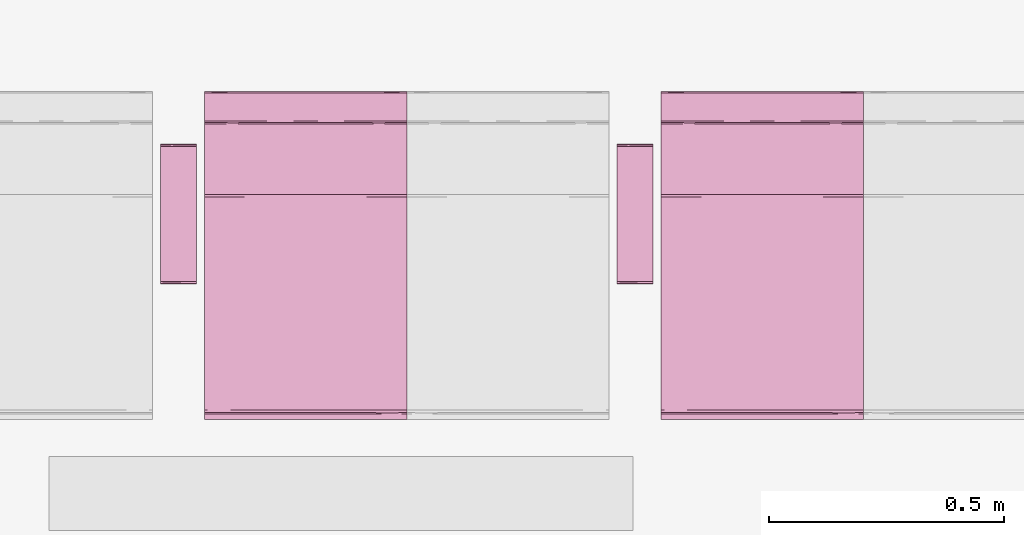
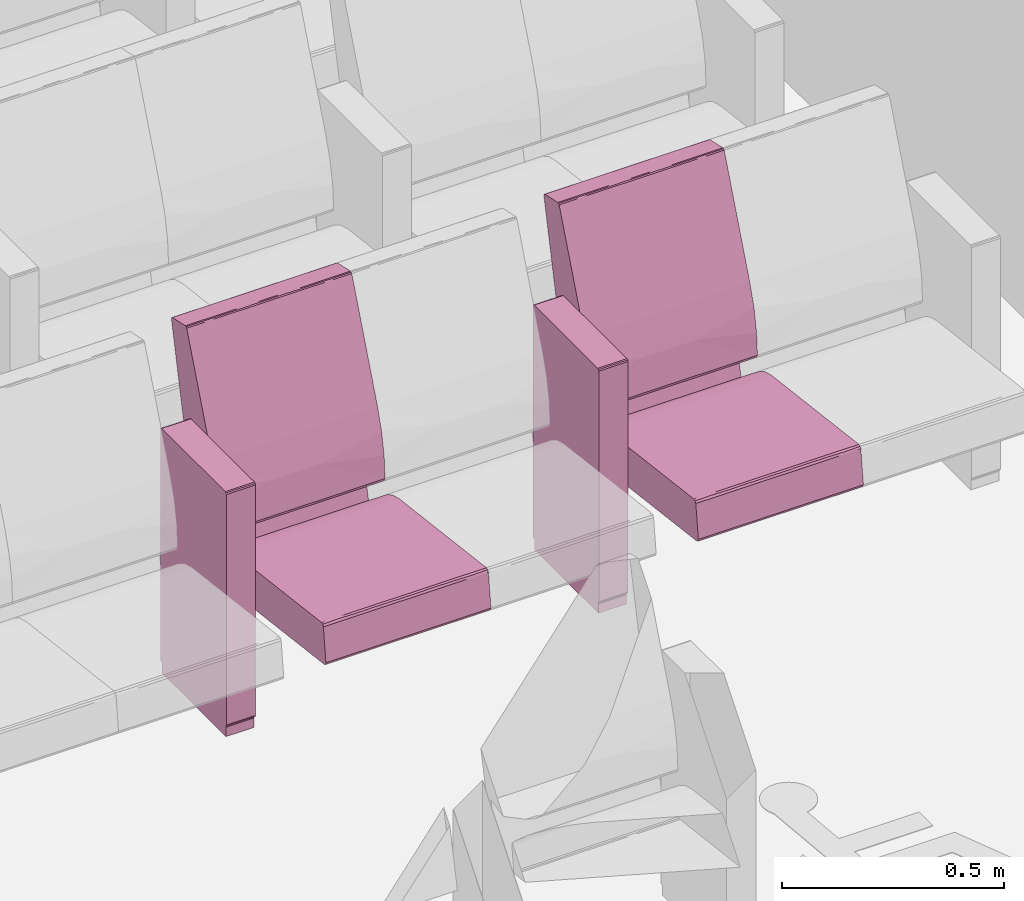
# One storey, part 90 of 155: 2 furnishings.
"""IFC2X3 building model written with IfcOpenShell, lengths in metres."""

from ifc_helpers import new_model, entity, si_unit, converted_unit, derived_unit, direction, frame, origin, place, context, subcontext, project, spatial, faceted_brep, source, transform, mapped, material, material_list, type_object, type_shapes, element, save


model = new_model("IFC2X3")

# Units and contexts
model_context = context("Model", 3, precision=1e-05, world=origin(), true_north=direction((6.12303176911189e-17, 1.0)))
body_context = subcontext(model_context, "Body", "Model", "MODEL_VIEW")
ifc_project = project(units=[si_unit("LENGTHUNIT", "METRE"), si_unit("AREAUNIT", "SQUARE_METRE"), si_unit("VOLUMEUNIT", "CUBIC_METRE"), converted_unit("PLANEANGLEUNIT", "DEGREE", entity("IfcRatioMeasure", 0.0174532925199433), si_unit("PLANEANGLEUNIT", "RADIAN"), dimensions=[0, 0, 0, 0, 0, 0, 0]), si_unit("MASSUNIT", "GRAM", prefix="KILO"), derived_unit("MASSDENSITYUNIT", [(si_unit("MASSUNIT", "GRAM", prefix="KILO"), 1), (si_unit("LENGTHUNIT", "METRE"), -3)]), si_unit("TIMEUNIT", "SECOND"), si_unit("FREQUENCYUNIT", "HERTZ"), si_unit("THERMODYNAMICTEMPERATUREUNIT", "DEGREE_CELSIUS"), derived_unit("THERMALTRANSMITTANCEUNIT", [(si_unit("MASSUNIT", "GRAM", prefix="KILO"), 1), (si_unit("THERMODYNAMICTEMPERATUREUNIT", "KELVIN"), -1), (si_unit("TIMEUNIT", "SECOND"), -3)]), derived_unit("VOLUMETRICFLOWRATEUNIT", [(si_unit("LENGTHUNIT", "METRE"), 3), (si_unit("TIMEUNIT", "SECOND"), -1)]), si_unit("ELECTRICCURRENTUNIT", "AMPERE"), si_unit("ELECTRICVOLTAGEUNIT", "VOLT"), si_unit("POWERUNIT", "WATT"), si_unit("FORCEUNIT", "NEWTON", prefix="KILO"), si_unit("ILLUMINANCEUNIT", "LUX"), si_unit("LUMINOUSFLUXUNIT", "LUMEN"), si_unit("LUMINOUSINTENSITYUNIT", "CANDELA"), derived_unit("USERDEFINED", [(si_unit("MASSUNIT", "GRAM", prefix="KILO"), -1), (si_unit("LENGTHUNIT", "METRE"), -2), (si_unit("TIMEUNIT", "SECOND"), 3), (si_unit("LUMINOUSFLUXUNIT", "LUMEN"), 1)]), derived_unit("LINEARVELOCITYUNIT", [(si_unit("LENGTHUNIT", "METRE"), 1), (si_unit("TIMEUNIT", "SECOND"), -1)]), si_unit("PRESSUREUNIT", "PASCAL"), derived_unit("USERDEFINED", [(si_unit("LENGTHUNIT", "METRE"), -2), (si_unit("MASSUNIT", "GRAM", prefix="KILO"), 1), (si_unit("TIMEUNIT", "SECOND"), -2)])], contexts=[model_context])

# Site, building, storey, space
site_placement = place(None, frame((26.9889013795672, -17.5624287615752, 0.0)))
site = spatial("IfcSite", under=ifc_project, at=site_placement, Name="Default", CompositionType="ELEMENT")
building_placement = place(site_placement, origin())
building = spatial("IfcBuilding", under=site, at=building_placement, Name="C. C. L. Monsenhor Antônio Sampaio", CompositionType="ELEMENT")
storey_placement = place(building_placement, frame((0.0, 0.0, 1.19999999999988)))
storey = spatial("IfcBuildingStorey", under=building, at=storey_placement, Name="Nível 1.2", CompositionType="ELEMENT", Elevation=1.19999999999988)
space_placement = place(storey_placement, origin())
space = spatial("IfcSpace", under=storey, at=space_placement, Name="94", CompositionType="ELEMENT", InteriorOrExteriorSpace="INTERNAL")

# Furnishings
ifc_material_1 = material(Name="V9 - V9 - Ecopelle_672_658")
ifc_material_2 = material(Name="V9 - V9 - RAL_9006_Grigio")
ifc_material_list_1 = material_list([ifc_material_1, ifc_material_2])
ifc_material_list_2 = material_list([ifc_material_1, ifc_material_2])
furniture_type = type_object("IfcFurnitureType", Name="Cadeira auditório", material=ifc_material_list_2)
shared_shape = source(origin(), body_context, "Body", "Brep", [
    faceted_brep([(0.405536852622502, 0.156348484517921, 0.339809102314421), (0.410560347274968, 0.131924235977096, 0.34246450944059), (0.405536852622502, 0.1075, 0.339809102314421), (0.405536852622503, 0.0537499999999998, 0.339809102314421), (0.410597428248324, 0.084060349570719, 0.342506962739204), (0.41079981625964, 0.0179166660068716, 0.342749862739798), (0.405536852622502, 0.215, 0.339809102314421), (0.410248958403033, 0.173608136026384, 0.342130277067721), (0.412515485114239, 0.185674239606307, 0.348529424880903), (0.412515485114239, 0.143333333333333, 0.348529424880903), (0.410560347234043, -0.131924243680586, 0.342464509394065), (0.405536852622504, -0.156348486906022, 0.33980910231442), (0.405536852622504, -0.1075, 0.33980910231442), (0.405536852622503, 0.0, 0.33980910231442), (0.41251548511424, 0.0, 0.348529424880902), (0.411170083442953, -0.0341365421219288, 0.343251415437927), (0.41059742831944, -0.0840603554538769, 0.342506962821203), (0.41251548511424, -0.143333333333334, 0.348529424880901), (0.412515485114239, 0.0358333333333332, 0.348529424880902), (0.412515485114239, 0.0716666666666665, 0.348529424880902), (0.405536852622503, -0.0537500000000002, 0.33980910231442), (0.412515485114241, -0.185674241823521, 0.348529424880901), (0.410799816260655, -0.215, 0.342749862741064), (0.410248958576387, -0.173608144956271, 0.342130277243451), (0.410799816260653, 0.215, 0.342749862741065), (0.412515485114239, 0.215, 0.348529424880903), (0.412515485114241, -0.215, 0.348529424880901), (0.41251548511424, -0.0716666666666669, 0.348529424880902), (0.405536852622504, -0.215, 0.33980910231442), (-0.0557900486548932, -0.215, 0.28268145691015), (-0.055790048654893, -0.168631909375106, 0.282681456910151), (-0.0557900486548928, -0.138065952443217, 0.282681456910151), (-0.0557900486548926, -0.107499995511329, 0.282681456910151), (-0.0557900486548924, -0.0806249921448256, 0.282681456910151), (-0.0557900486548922, -0.0537499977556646, 0.282681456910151), (-0.0557900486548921, -0.0268750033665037, 0.282681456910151), (-0.0557900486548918, 0.0, 0.28268145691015), (-0.0557900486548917, 0.0268749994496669, 0.282681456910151), (-0.0557900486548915, 0.0537499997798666, 0.282681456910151), (-0.0557900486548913, 0.0806250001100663, 0.282681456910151), (-0.0557900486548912, 0.107499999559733, 0.282681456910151), (-0.055790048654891, 0.134374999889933, 0.282681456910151), (-0.0557900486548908, 0.161250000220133, 0.282681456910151), (-0.0557900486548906, 0.1881249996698, 0.282681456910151), (-0.0557900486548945, 0.215, 0.28268145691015), (-0.0594787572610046, -0.0152829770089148, 0.283700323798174), (-0.0613666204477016, 0.0, 0.287029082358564), (-0.0594787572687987, 0.0179017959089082, 0.283700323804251), (-0.0613666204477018, 0.191815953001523, 0.287029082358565), (-0.0613666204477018, 0.215, 0.287029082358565), (-0.0594787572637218, 0.215, 0.283700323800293), (-0.0593340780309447, 0.0671874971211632, 0.283591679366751), (-0.0613666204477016, 0.030565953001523, 0.287029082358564), (-0.0594787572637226, -0.215, 0.283700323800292), (-0.0593337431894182, -0.184174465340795, 0.283591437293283), (-0.0613666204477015, -0.122263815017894, 0.287029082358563), (-0.0613666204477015, -0.0916978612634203, 0.287029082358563), (-0.0613666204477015, -0.0611319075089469, 0.287029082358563), (-0.0593023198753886, -0.0940625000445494, 0.283568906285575), (-0.059382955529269, 0.118123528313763, 0.28362747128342), (-0.0613666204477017, 0.122263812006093, 0.287029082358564), (-0.0597338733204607, 0.147039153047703, 0.283913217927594), (-0.0613666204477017, 0.168631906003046, 0.287029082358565), (-0.0592501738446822, 0.180223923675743, 0.283532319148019), (-0.0588783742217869, 0.0926899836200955, 0.283298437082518), (-0.0613666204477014, -0.215, 0.287029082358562), (-0.0613666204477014, -0.168631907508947, 0.287029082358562), (-0.0592576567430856, -0.123736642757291, 0.283537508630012), (-0.0594787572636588, -0.153348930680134, 0.283700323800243), (-0.0613666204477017, 0.0916978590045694, 0.287029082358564), (-0.0613666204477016, -0.0305659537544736, 0.287029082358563), (-0.059645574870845, -0.045848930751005, 0.283836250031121), (-0.0613666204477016, 0.0611319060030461, 0.287029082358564), (-0.069340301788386, -0.215, 0.351419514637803), (-0.0693403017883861, -0.143333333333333, 0.351419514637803), (-0.0693403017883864, -0.0716666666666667, 0.351419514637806), (-0.0693403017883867, 0.0, 0.351419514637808), (-0.069340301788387, 0.0716666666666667, 0.351419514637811), (-0.0693403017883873, 0.143333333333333, 0.351419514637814), (-0.0693403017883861, 0.215, 0.351419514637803), (-0.0597085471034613, 0.0, 0.37476954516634), (-0.0645543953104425, 0.112272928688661, 0.369803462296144), (-0.0653387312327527, 0.0126787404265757, 0.368680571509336), (-0.0681665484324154, -0.0888707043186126, 0.36292533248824), (-0.0655136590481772, -0.10440004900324, 0.368411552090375), (-0.0694879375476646, 0.0590582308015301, 0.356377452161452), (-0.0695056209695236, -0.125492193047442, 0.356093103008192), (-0.0597085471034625, -0.110316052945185, 0.374769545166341), (-0.0690003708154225, 0.132942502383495, 0.359900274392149), (-0.0672851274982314, 0.108066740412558, 0.365148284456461), (-0.0676206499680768, 0.215, 0.364371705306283), (-0.0686241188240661, 0.215, 0.356813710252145), (-0.0686241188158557, -0.214999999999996, 0.356813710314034), (-0.0686999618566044, 0.0358333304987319, 0.36116674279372), (-0.0694502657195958, -0.0358333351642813, 0.356863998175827), (-0.0676206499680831, -0.214999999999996, 0.364371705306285), (-0.0636645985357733, -0.214999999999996, 0.369570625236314), (-0.0597085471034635, -0.214999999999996, 0.374769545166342), (-0.0597085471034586, 0.215, 0.374769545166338), (-0.0636645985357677, 0.215, 0.36957062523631), (-0.0597085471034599, 0.110316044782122, 0.374769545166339), (-0.0324117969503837, 0.215, 0.390639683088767), (-0.0324117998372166, 0.0436847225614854, 0.39063968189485), (-0.0018793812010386, 0.215, 0.398686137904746), (-0.041847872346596, -0.0856576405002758, 0.386239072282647), (-0.0324117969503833, -0.215, 0.390639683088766), (-0.00187938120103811, -0.215, 0.398686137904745), (-0.00187938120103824, -0.102488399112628, 0.398686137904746), (-0.0219042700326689, -0.0570631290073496, 0.394412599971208), (-0.00187938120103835, 0.0, 0.398686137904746), (0.392202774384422, 0.215, 0.447486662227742), (0.392202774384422, -0.215, 0.447486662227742), (0.392202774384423, -0.156349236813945, 0.447486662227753), (0.392202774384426, -0.107499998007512, 0.447486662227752), (0.392202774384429, -0.0537500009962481, 0.44748666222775), (0.392202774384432, 0.0, 0.447486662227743), (0.392202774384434, 0.0537499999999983, 0.447486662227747), (0.392202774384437, 0.107499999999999, 0.447486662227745), (0.392202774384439, 0.156349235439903, 0.447486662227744), (0.398104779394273, -0.131924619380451, 0.445856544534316), (0.401125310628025, -0.0976984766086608, 0.440530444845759), (0.397860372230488, -0.0827732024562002, 0.446039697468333), (0.401125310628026, -0.215000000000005, 0.440530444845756), (0.401125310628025, -0.156349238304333, 0.440530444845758), (0.397373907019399, -0.173462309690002, 0.446363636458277), (0.398104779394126, -0.215000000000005, 0.445856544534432), (0.397860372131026, 0.0827731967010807, 0.446039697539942), (0.398104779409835, 0.131924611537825, 0.445856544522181), (0.398104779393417, -0.0237489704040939, 0.445856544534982), (0.398104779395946, 0.0268749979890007, 0.445856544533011), (0.401125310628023, 0.0488492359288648, 0.440530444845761), (0.401125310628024, -0.0488492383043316, 0.440530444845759), (0.398774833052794, 0.173462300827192, 0.445271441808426), (0.401125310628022, 0.097698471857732, 0.440530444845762), (0.401125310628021, 0.215, 0.440530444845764), (0.39810477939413, 0.215, 0.445856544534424), (0.401125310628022, 0.156349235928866, 0.440530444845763), (0.401125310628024, 0.0, 0.44053044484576)], [[[0, 1, 2]], [[3, 4, 5]], [[6, 7, 0]], [[7, 8, 9]], [[10, 11, 12]], [[3, 5, 13]], [[14, 15, 5]], [[16, 17, 10]], [[9, 1, 7]], [[18, 5, 4]], [[4, 9, 19, 18]], [[9, 4, 1]], [[2, 1, 4]], [[13, 15, 20]], [[21, 22, 23]], [[5, 18, 14]], [[24, 25, 8]], [[22, 21, 26]], [[24, 7, 6]], [[23, 11, 10]], [[20, 15, 16]], [[3, 2, 4]], [[14, 27, 15]], [[5, 15, 13]], [[27, 17, 16]], [[10, 12, 16]], [[21, 23, 17]], [[20, 16, 12]], [[15, 27, 16]], [[7, 1, 0]], [[28, 11, 23]], [[8, 7, 24]], [[23, 10, 17]], [[28, 23, 22]], [[28, 29, 30, 31, 32, 33, 34, 35, 36, 37, 38, 39, 40, 41, 42, 43, 44, 6, 0, 2, 3, 13, 20, 12, 11]], [[45, 46, 47]], [[48, 49, 50]], [[51, 47, 52]], [[29, 53, 54]], [[55, 56, 57, 58]], [[59, 60, 61]], [[61, 62, 63]], [[51, 64, 39]], [[65, 66, 54]], [[31, 67, 32]], [[45, 47, 38, 37, 36, 35]], [[68, 31, 30]], [[43, 50, 44]], [[63, 42, 61]], [[48, 50, 63]], [[64, 69, 59]], [[68, 54, 66]], [[63, 62, 48]], [[50, 43, 63]], [[67, 55, 58]], [[61, 42, 41]], [[45, 70, 46]], [[55, 68, 66]], [[71, 33, 58]], [[71, 57, 70]], [[41, 40, 59]], [[60, 62, 61]], [[71, 35, 34, 33]], [[35, 71, 45]], [[47, 46, 52]], [[45, 71, 70]], [[58, 57, 71]], [[32, 58, 33]], [[31, 68, 67]], [[54, 68, 30]], [[29, 54, 30]], [[54, 53, 65]], [[55, 67, 68]], [[32, 67, 58]], [[51, 52, 72, 69]], [[43, 42, 63]], [[41, 59, 61]], [[47, 51, 38]], [[40, 39, 64]], [[38, 51, 39]], [[69, 60, 59]], [[69, 64, 51]], [[40, 64, 59]], [[65, 73, 74, 75, 76, 77, 78, 79, 49, 48, 62, 60, 69, 72, 52, 46, 70, 57, 56, 55, 66]], [[80, 81, 82]], [[82, 83, 84]], [[78, 77, 76, 85]], [[86, 75, 74]], [[84, 80, 82]], [[80, 84, 87]], [[88, 89, 90]], [[91, 79, 78]], [[74, 73, 92]], [[85, 88, 91]], [[81, 89, 82]], [[93, 94, 83]], [[94, 86, 83]], [[85, 76, 94]], [[92, 86, 74]], [[85, 94, 93]], [[83, 92, 95]], [[75, 94, 76]], [[93, 83, 82]], [[95, 96, 84]], [[88, 85, 93]], [[96, 97, 87]], [[98, 99, 100]], [[78, 85, 91]], [[89, 88, 93]], [[90, 91, 88]], [[93, 82, 89]], [[81, 99, 89]], [[99, 90, 89]], [[100, 81, 80]], [[100, 99, 81]], [[83, 86, 92]], [[75, 86, 94]], [[95, 84, 83]], [[87, 84, 96]], [[101, 102, 103]], [[104, 80, 87, 97]], [[105, 106, 107]], [[107, 108, 105]], [[103, 102, 109]], [[104, 102, 80]], [[104, 108, 102]], [[98, 102, 101]], [[105, 104, 97]], [[105, 108, 104]], [[102, 98, 100, 80]], [[109, 108, 107]], [[109, 102, 108]], [[110, 103, 109, 107, 106, 111, 112, 113, 114, 115, 116, 117, 118]], [[119, 120, 121]], [[122, 123, 124]], [[111, 125, 124]], [[117, 116, 126]], [[124, 119, 112]], [[113, 112, 119]], [[127, 118, 117]], [[115, 114, 128, 129, 116]], [[129, 130, 126]], [[121, 131, 128]], [[127, 132, 118]], [[110, 118, 132]], [[127, 126, 133]], [[119, 124, 123]], [[134, 135, 132]], [[136, 132, 127]], [[120, 119, 123]], [[133, 136, 127]], [[137, 130, 129, 128, 131]], [[126, 127, 117]], [[130, 133, 126]], [[113, 119, 121]], [[129, 126, 116]], [[128, 114, 121]], [[114, 113, 121]], [[131, 121, 120]], [[111, 124, 112]], [[124, 125, 122]], [[134, 132, 136]], [[132, 135, 110]], [[19, 9, 8, 25, 134, 136, 133, 130, 137, 131, 120, 123, 122, 26, 21, 17, 27, 14, 18]], [[65, 53, 29, 28, 22, 26, 122, 125, 111, 106, 105, 97, 96, 95, 92, 73]], [[98, 101, 103, 110, 135, 134, 25, 24, 6, 44, 50, 49, 79, 91, 90, 99]]]),
    faceted_brep([(0.123144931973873, -0.283972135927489, 0.673627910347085), (0.12334838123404, -0.259944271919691, 0.6734355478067), (0.119812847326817, -0.27, 0.674900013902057), (0.124812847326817, -0.27, 0.669900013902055), (0.12334838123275, -0.232, 0.673435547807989), (0.119812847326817, -0.232, 0.674900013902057), (0.124812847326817, -0.308, 0.669900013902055), (0.119812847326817, -0.308, 0.674900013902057), (0.124812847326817, -0.249888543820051, 0.669900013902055), (0.124812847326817, -0.232, 0.669900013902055), (0.12334838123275, -0.308, 0.673435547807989), (0.124812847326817, -0.27, 0.035), (0.124812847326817, -0.232, 0.035), (0.124812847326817, -0.308, 0.0350000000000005), (0.123540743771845, -0.283972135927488, 0.0316679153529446), (0.12334838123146, -0.25994427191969, 0.0314644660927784), (0.119812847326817, -0.27, 0.0300000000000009), (0.12334838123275, -0.232, 0.0314644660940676), (0.119812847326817, -0.308, 0.0300000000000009), (0.119812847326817, -0.249888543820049, 0.030000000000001), (0.119812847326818, -0.232, 0.030000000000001), (0.123348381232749, -0.308, 0.0314644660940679), (-0.167179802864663, -0.308, 0.0300000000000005), (-0.167179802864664, -0.27, 0.0300000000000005), (-0.167179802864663, -0.232, 0.0300000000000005), (-0.17051188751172, -0.283972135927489, 0.0312721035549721), (-0.170715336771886, -0.25994427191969, 0.0314644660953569), (-0.172179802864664, -0.27, 0.0350000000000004), (-0.170715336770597, -0.232, 0.0314644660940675), (-0.172179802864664, -0.308, 0.0350000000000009), (-0.172179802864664, -0.24988854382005, 0.0350000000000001), (-0.172179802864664, -0.232, 0.0349999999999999), (-0.170715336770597, -0.308, 0.0314644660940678), (-0.172179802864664, -0.308, 0.669900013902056), (-0.172179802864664, -0.27, 0.669900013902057), (-0.172179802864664, -0.232, 0.669900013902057), (-0.170907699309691, -0.283972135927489, 0.673232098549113), (-0.170715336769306, -0.259944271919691, 0.673435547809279), (-0.167179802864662, -0.27, 0.674900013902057), (-0.170715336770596, -0.232, 0.67343554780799), (-0.167179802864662, -0.308, 0.674900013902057), (-0.167179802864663, -0.249888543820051, 0.674900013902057), (-0.167179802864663, -0.232, 0.674900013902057), (-0.170715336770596, -0.308, 0.67343554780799)], [[[0, 1, 2]], [[1, 0, 3]], [[1, 4, 5, 2]], [[6, 3, 0]], [[7, 0, 2]], [[4, 1, 3, 8, 9]], [[10, 0, 7]], [[0, 10, 6]], [[11, 12, 9, 8, 3, 6, 13]], [[14, 15, 11]], [[15, 14, 16]], [[15, 17, 12, 11]], [[18, 16, 14]], [[13, 14, 11]], [[17, 15, 16, 19, 20]], [[21, 14, 13]], [[14, 21, 18]], [[18, 22, 23, 24, 20, 19, 16]], [[25, 26, 23]], [[26, 25, 27]], [[26, 28, 24, 23]], [[29, 27, 25]], [[22, 25, 23]], [[28, 26, 27, 30, 31]], [[32, 25, 22]], [[25, 32, 29]], [[27, 29, 33, 34, 35, 31, 30]], [[36, 37, 34]], [[37, 36, 38]], [[37, 39, 35, 34]], [[40, 38, 36]], [[33, 36, 34]], [[39, 37, 38, 41, 42]], [[43, 36, 33]], [[36, 43, 40]], [[40, 7, 2, 5, 42, 41, 38]], [[35, 39, 42, 5, 4, 9, 12, 17, 20, 24, 28, 31]], [[29, 32, 22, 18, 21, 13, 6, 10, 7, 40, 43, 33]]]),
    faceted_brep([(-0.0695672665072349, 0.215, 0.476508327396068), (-0.074405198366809, 0.0524423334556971, 0.506888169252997), (-0.0655618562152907, 0.215, 0.415143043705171), (-0.0744051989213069, -0.0780075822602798, 0.506888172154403), (-0.0655618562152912, 0.0, 0.415143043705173), (-0.0655618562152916, -0.215, 0.415143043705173), (-0.0655618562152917, -0.1075, 0.415143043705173), (-0.0655618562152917, 0.1075, 0.415143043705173), (-0.0695672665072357, -0.215, 0.476508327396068), (-0.081111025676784, -0.215, 0.536911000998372), (-0.0811110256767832, 0.215, 0.536911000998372), (-0.100016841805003, 0.215, 0.595428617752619), (-0.100016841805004, 0.0, 0.595428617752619), (-0.100016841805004, -0.215, 0.595428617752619), (-0.0698317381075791, 0.0358333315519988, 0.406528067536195), (-0.0792851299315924, 0.0, 0.404772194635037), (-0.0792851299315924, 0.0716666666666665, 0.404772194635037), (-0.0792851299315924, -0.215, 0.404772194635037), (-0.0792851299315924, -0.143333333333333, 0.404772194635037), (-0.0698317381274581, -0.215, 0.406528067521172), (-0.0792851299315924, 0.143333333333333, 0.404772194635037), (-0.0792851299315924, 0.215, 0.404772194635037), (-0.0698317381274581, 0.215, 0.406528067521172), (-0.0694171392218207, 0.140338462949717, 0.406857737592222), (-0.0708115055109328, -0.0356393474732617, 0.405868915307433), (-0.0703502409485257, -0.107500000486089, 0.406159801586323), (-0.0792851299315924, -0.0716666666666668, 0.404772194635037), (-0.163837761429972, -0.215, 0.420611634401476), (-0.163837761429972, 0.215, 0.420611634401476), (-0.123612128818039, 0.215, 0.235917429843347), (-0.123612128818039, -0.215, 0.235917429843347), (-0.142059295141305, -0.215, 0.231899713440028), (-0.142059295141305, 0.215, 0.231899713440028), (-0.235388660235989, -0.215, 0.652619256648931), (-0.235388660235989, 0.215, 0.652619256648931), (-0.28428001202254, -0.215, 0.873004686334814), (-0.284280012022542, -0.191295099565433, 0.873004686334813), (-0.284280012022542, -0.161249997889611, 0.873004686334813), (-0.284280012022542, -0.134374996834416, 0.873004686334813), (-0.284280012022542, -0.107499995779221, 0.873004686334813), (-0.284280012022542, -0.0806249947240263, 0.873004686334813), (-0.284280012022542, -0.0537499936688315, 0.873004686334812), (-0.284280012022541, -0.0268749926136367, 0.873004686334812), (-0.28428001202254, 0.0, 0.873004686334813), (-0.284280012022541, 0.0268749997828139, 0.873004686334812), (-0.284280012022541, 0.0537500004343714, 0.873004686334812), (-0.284280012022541, 0.0806250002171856, 0.873004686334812), (-0.284280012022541, 0.1075, 0.873004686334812), (-0.284280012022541, 0.134374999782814, 0.873004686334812), (-0.28428001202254, 0.161249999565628, 0.873004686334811), (-0.28428001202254, 0.191295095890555, 0.873004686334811), (-0.28428001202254, 0.215, 0.873004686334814), (-0.283746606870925, 0.0872244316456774, 0.876674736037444), (-0.283504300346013, 0.0569644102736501, 0.877068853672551), (-0.283567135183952, -0.15546176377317, 0.876973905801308), (-0.283641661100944, -0.12093750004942, 0.87685511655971), (-0.283567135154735, 0.155461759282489, 0.876973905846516), (-0.28330409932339, 0.185293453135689, 0.877344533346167), (-0.283641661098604, 0.0179166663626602, 0.876855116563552), (-0.283641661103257, -0.0136463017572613, 0.876855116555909), (-0.280514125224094, -0.0358333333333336, 0.879190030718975), (-0.280514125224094, 0.0, 0.879190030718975), (-0.280514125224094, 0.0358333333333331, 0.879190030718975), (-0.280514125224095, -0.143333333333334, 0.879190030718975), (-0.280514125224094, -0.1075, 0.879190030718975), (-0.280514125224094, -0.071666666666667, 0.879190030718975), (-0.283746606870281, -0.0872244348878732, 0.876674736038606), (-0.280514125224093, 0.0716666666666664, 0.879190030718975), (-0.280514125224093, 0.1075, 0.879190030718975), (-0.283641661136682, 0.120937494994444, 0.876855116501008), (-0.280514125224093, 0.143333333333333, 0.879190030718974), (-0.283641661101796, 0.215, 0.876855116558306), (-0.283641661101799, -0.215, 0.876855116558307), (-0.283304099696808, -0.18529345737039, 0.877344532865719), (-0.280514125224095, -0.167590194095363, 0.879190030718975), (-0.280514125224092, 0.215, 0.879190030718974), (-0.280514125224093, 0.167590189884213, 0.879190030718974), (-0.280514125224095, -0.215, 0.879190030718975), (-0.283504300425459, -0.0569644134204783, 0.8770688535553), (-0.22111253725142, 0.215, 0.892176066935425), (-0.22111253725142, -0.215, 0.892176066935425), (-0.221112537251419, -0.191815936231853, 0.892176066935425), (-0.221112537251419, -0.161250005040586, 0.892176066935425), (-0.221112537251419, -0.134375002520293, 0.892176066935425), (-0.221112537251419, -0.1075, 0.892176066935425), (-0.221112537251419, -0.080624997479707, 0.892176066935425), (-0.221112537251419, -0.0537499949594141, 0.892176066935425), (-0.221112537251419, -0.0268750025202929, 0.892176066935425), (-0.221112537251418, 0.0, 0.892176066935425), (-0.221112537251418, 0.0268750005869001, 0.892176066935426), (-0.221112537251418, 0.05375000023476, 0.892176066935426), (-0.221112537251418, 0.0806249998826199, 0.892176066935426), (-0.221112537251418, 0.10749999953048, 0.892176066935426), (-0.221112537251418, 0.13437499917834, 0.892176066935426), (-0.221112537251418, 0.16124999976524, 0.892176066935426), (-0.221112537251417, 0.19181594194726, 0.892176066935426), (-0.215419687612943, 0.0, 0.889191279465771), (-0.215419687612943, 0.0358333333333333, 0.889191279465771), (-0.217722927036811, 0.0162353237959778, 0.891719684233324), (-0.217722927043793, -0.0134375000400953, 0.891719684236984), (-0.215419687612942, -0.191815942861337, 0.889191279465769), (-0.215419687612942, -0.168631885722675, 0.889191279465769), (-0.217722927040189, -0.182482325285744, 0.891719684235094), (-0.217722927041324, -0.215, 0.891719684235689), (-0.215419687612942, -0.215, 0.889191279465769), (-0.215419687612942, -0.1075, 0.88919127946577), (-0.215419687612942, -0.0716666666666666, 0.88919127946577), (-0.217722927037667, -0.0912646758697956, 0.891719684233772), (-0.217722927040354, -0.120937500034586, 0.89171968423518), (-0.215419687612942, -0.143333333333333, 0.88919127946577), (-0.215419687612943, 0.191815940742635, 0.889191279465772), (-0.215419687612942, 0.215, 0.889191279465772), (-0.217722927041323, 0.215, 0.89171968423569), (-0.217722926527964, 0.190103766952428, 0.891719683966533), (-0.217722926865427, 0.0912646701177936, 0.891719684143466), (-0.217816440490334, 0.0647800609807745, 0.891767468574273), (-0.215419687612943, 0.0716666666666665, 0.889191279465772), (-0.217816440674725, -0.0647800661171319, 0.891767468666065), (-0.2179983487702, -0.0390825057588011, 0.891853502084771), (-0.217558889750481, -0.155982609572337, 0.891629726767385), (-0.217722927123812, 0.120937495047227, 0.891719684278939), (-0.215419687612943, 0.16863188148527, 0.889191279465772), (-0.215419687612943, 0.143333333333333, 0.889191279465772), (-0.217558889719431, 0.15598260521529, 0.891629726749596), (-0.215419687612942, -0.0358333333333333, 0.889191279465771), (-0.215419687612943, 0.1075, 0.889191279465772), (-0.218257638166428, 0.0404491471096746, 0.891961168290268)], [[[0, 1, 2]], [[1, 3, 4]], [[3, 5, 6, 4]], [[1, 4, 7, 2]], [[5, 3, 8]], [[8, 3, 9]], [[0, 10, 1]], [[11, 12, 1]], [[3, 13, 9]], [[3, 12, 13]], [[11, 1, 10]], [[3, 1, 12]], [[14, 15, 16]], [[17, 18, 19]], [[20, 21, 22]], [[2, 23, 22]], [[14, 7, 4]], [[14, 24, 15]], [[6, 25, 24]], [[22, 23, 20]], [[14, 23, 7]], [[19, 6, 5]], [[4, 24, 14]], [[16, 23, 14]], [[16, 20, 23]], [[26, 25, 18]], [[25, 19, 18]], [[15, 24, 26]], [[23, 2, 7]], [[19, 25, 6]], [[26, 24, 25]], [[6, 24, 4]], [[15, 26, 18, 17, 27, 28, 21, 20, 16]], [[29, 28, 27, 30]], [[30, 31, 32, 29]], [[32, 31, 33, 34]], [[34, 33, 35, 36, 37, 38, 39, 40, 41, 42, 43, 44, 45, 46, 47, 48, 49, 50, 51]], [[52, 46, 53]], [[38, 54, 55]], [[56, 57, 49]], [[58, 59, 60, 61, 62]], [[63, 64, 55]], [[64, 65, 66]], [[52, 67, 68]], [[69, 70, 56]], [[49, 57, 50]], [[38, 55, 39]], [[71, 51, 50]], [[36, 35, 72]], [[59, 58, 44, 43, 42]], [[73, 74, 54]], [[55, 66, 39]], [[75, 57, 76]], [[77, 74, 73]], [[69, 52, 68]], [[37, 36, 73]], [[54, 74, 63]], [[56, 76, 57]], [[36, 72, 73]], [[75, 71, 57]], [[70, 76, 56]], [[52, 69, 47]], [[48, 47, 69]], [[42, 78, 59]], [[66, 55, 64]], [[50, 57, 71]], [[73, 54, 37]], [[77, 73, 72]], [[48, 69, 56]], [[56, 49, 48]], [[69, 68, 70]], [[53, 46, 45, 44]], [[58, 62, 53]], [[53, 44, 58]], [[38, 37, 54]], [[63, 55, 54]], [[78, 66, 65]], [[78, 40, 66]], [[67, 52, 53]], [[78, 42, 41, 40]], [[65, 60, 78]], [[59, 78, 60]], [[52, 47, 46]], [[40, 39, 66]], [[62, 67, 53]], [[79, 75, 76, 70, 68, 67, 62, 61, 60, 65, 64, 63, 74, 77, 80, 81, 82, 83, 84, 85, 86, 87, 88, 89, 90, 91, 92, 93, 94, 95]], [[96, 97, 98, 99]], [[100, 101, 102, 103, 104]], [[105, 106, 107, 108, 109]], [[110, 111, 112]], [[113, 112, 95]], [[114, 115, 116]], [[117, 118, 86]], [[82, 119, 83]], [[102, 82, 81, 80, 103]], [[112, 79, 95]], [[108, 107, 85, 84, 83]], [[88, 87, 99, 98, 89]], [[119, 101, 109]], [[93, 92, 120]], [[117, 85, 107]], [[113, 121, 110]], [[122, 121, 123]], [[113, 94, 123]], [[124, 99, 118]], [[122, 123, 120]], [[108, 119, 109]], [[113, 110, 112]], [[102, 101, 119]], [[119, 108, 83]], [[114, 125, 120]], [[123, 94, 93]], [[93, 120, 123]], [[114, 120, 92]], [[122, 120, 125]], [[117, 107, 106]], [[114, 92, 91]], [[116, 125, 114]], [[115, 91, 90]], [[85, 117, 86]], [[126, 89, 98]], [[117, 106, 124]], [[118, 99, 87]], [[124, 96, 99]], [[97, 116, 115]], [[97, 115, 126]], [[86, 118, 87]], [[124, 118, 117]], [[91, 115, 114]], [[115, 90, 126]], [[89, 126, 90]], [[97, 126, 98]], [[82, 102, 119]], [[94, 113, 95]], [[121, 113, 123]], [[11, 111, 110, 121, 122, 125, 116, 97, 96, 124, 106, 105, 109, 101, 100, 104, 13, 12]], [[27, 17, 19, 5, 8, 9, 13, 104, 103, 80, 77, 72, 35, 33, 31, 30]], [[51, 71, 75, 79, 112, 111, 11, 10, 0, 2, 22, 21, 28, 29, 32, 34]]]),
    faceted_brep([(0.120312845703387, -0.2335, 0.0), (0.120312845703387, -0.2335, 0.0260000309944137), (0.120312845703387, -0.249500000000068, 0.0260000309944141), (0.120312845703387, -0.27, 0.0260000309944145), (0.120312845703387, -0.3065, 0.0260000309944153), (0.120312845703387, -0.3065, 0.0), (-0.167687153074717, -0.3065, 0.0), (-0.167687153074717, -0.2335, 0.0), (-0.167687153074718, -0.27, 0.0260000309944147), (-0.167687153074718, -0.2335, 0.0260000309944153), (-0.167687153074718, -0.3065, 0.0260000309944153), (-0.166521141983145, -0.233500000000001, 0.0288228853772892), (-0.166521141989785, -0.257382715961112, 0.0288228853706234), (-0.163702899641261, -0.233500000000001, 0.0300000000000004), (-0.163702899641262, -0.3065, 0.0300000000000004), (-0.16652114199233, -0.279986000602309, 0.0288228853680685), (-0.166521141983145, -0.3065, 0.0288228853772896), (-0.163702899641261, -0.27, 0.0300000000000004), (0.116297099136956, -0.3065, 0.0300000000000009), (0.116297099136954, -0.269999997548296, 0.0300000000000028), (0.116297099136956, -0.2335, 0.0300000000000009), (0.119033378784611, -0.283124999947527, 0.0289323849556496), (0.1191357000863, -0.2335, 0.0288340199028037), (0.119135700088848, -0.259750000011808, 0.0288340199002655), (0.119135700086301, -0.3065, 0.0288340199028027)], [[[0, 1, 2, 3, 4, 5]], [[0, 5, 6, 7]], [[8, 9, 7, 6, 10]], [[11, 12, 13]], [[14, 15, 16]], [[15, 14, 17, 13, 12]], [[9, 8, 12, 11]], [[16, 15, 10]], [[8, 10, 15, 12]], [[14, 18, 19, 20, 13, 17]], [[21, 4, 3]], [[22, 20, 19, 23]], [[3, 2, 1, 22, 23]], [[24, 21, 18]], [[21, 3, 23]], [[18, 21, 19]], [[21, 24, 4]], [[21, 23, 19]], [[6, 5, 4, 24, 18, 14, 16, 10]], [[7, 9, 11, 13, 20, 22, 1, 0]]]),
])
type_shapes(furniture_type, [shared_shape])
furnishing_1_placement = place(space_placement, frame((-8.06594929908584, -16.2852332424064, 0.0), z_axis=(0.0, 0.0, 1.0), x_axis=(0.0, -1.0, 0.0)))
element("IfcFurnishingElement", 1, at=furnishing_1_placement, inside=space, type_object=furniture_type, material=ifc_material_list_1, Name="cadeira auditório pcd:Cadeira auditório", ObjectType="Cadeira auditório", context=body_context, shape_type="MappedRepresentation", body=[
    mapped(shared_shape, transform((0.0, 0.0, 0.0), scale=1.0)),
])
ifc_material_list_3 = material_list([ifc_material_1, ifc_material_2])
furnishing_2_placement = place(space_placement, frame((-7.09594929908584, -16.2852332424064, 0.0), z_axis=(0.0, 0.0, 1.0), x_axis=(0.0, -1.0, 0.0)))
element("IfcFurnishingElement", 2, at=furnishing_2_placement, inside=space, type_object=furniture_type, material=ifc_material_list_3, Name="cadeira auditório pcd:Cadeira auditório", ObjectType="Cadeira auditório", context=body_context, shape_type="MappedRepresentation", body=[
    mapped(shared_shape, transform((0.0, 0.0, 0.0), scale=1.0)),
])

save(model, "model.ifc")
